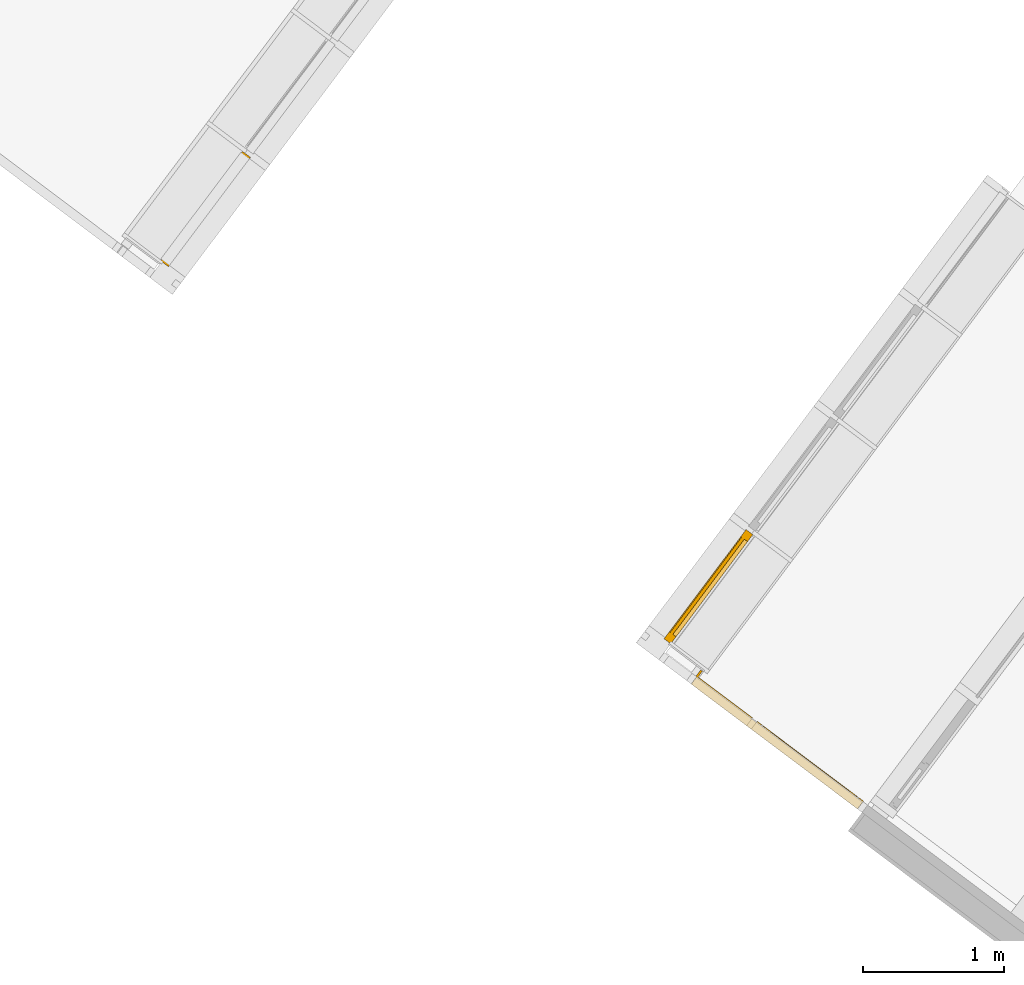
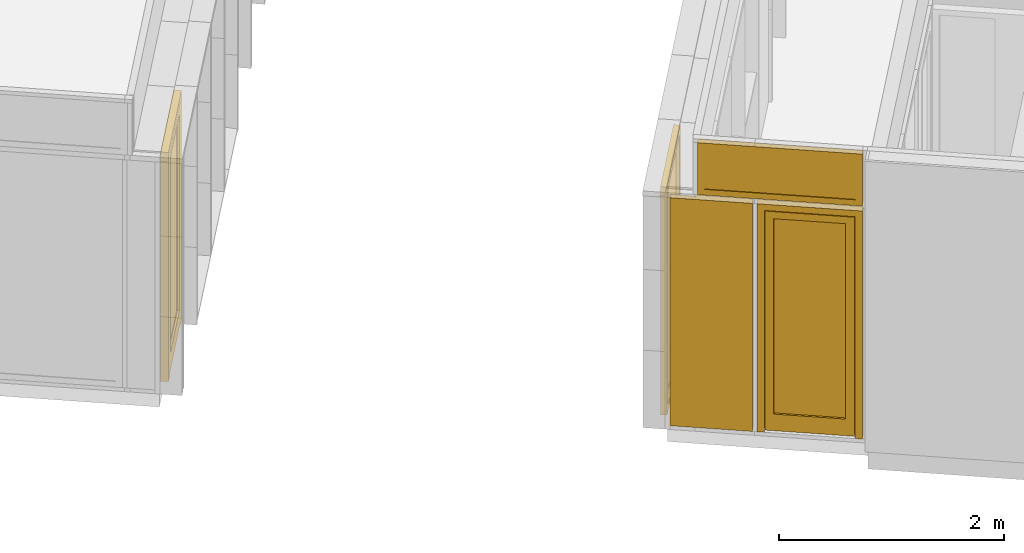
# One storey, part 140 of 243: 3 doors, 2 windows, 3 elements without a shape of their own.
"""IFC2X3 building model written with IfcOpenShell, lengths in metres."""

from ifc_helpers import new_model, entity, si_unit, converted_unit, derived_unit, direction, frame, origin, origin_2d_with_axis, place, context, subcontext, project, spatial, polyline, rectangle, outline, extrude, faceted_brep, source, transform, mapped, material, material_list, type_object, type_shapes, element, aggregate, save


model = new_model("IFC2X3")

# Units and contexts
model_context = context("Model", 3, precision=1e-05, world=origin(), true_north=direction((6.123031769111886e-17, 1.0)))
body_context = subcontext(model_context, "Body", "Model", "MODEL_VIEW")
ifc_project = project(units=[si_unit("LENGTHUNIT", "METRE"), si_unit("AREAUNIT", "SQUARE_METRE"), si_unit("VOLUMEUNIT", "CUBIC_METRE"), converted_unit("PLANEANGLEUNIT", "DEGREE", entity("IfcRatioMeasure", 0.017453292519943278), si_unit("PLANEANGLEUNIT", "RADIAN"), dimensions=[0, 0, 0, 0, 0, 0, 0]), si_unit("MASSUNIT", "GRAM", prefix="KILO"), derived_unit("MASSDENSITYUNIT", [(si_unit("MASSUNIT", "GRAM", prefix="KILO"), 1), (si_unit("LENGTHUNIT", "METRE"), -3)]), derived_unit("IONCONCENTRATIONUNIT", [(si_unit("MASSUNIT", "GRAM", prefix="KILO"), 1), (si_unit("LENGTHUNIT", "METRE"), -3)]), derived_unit("MOMENTOFINERTIAUNIT", [(si_unit("LENGTHUNIT", "METRE"), 4)]), si_unit("TIMEUNIT", "SECOND"), si_unit("FREQUENCYUNIT", "HERTZ"), si_unit("THERMODYNAMICTEMPERATUREUNIT", "DEGREE_CELSIUS"), derived_unit("THERMALTRANSMITTANCEUNIT", [(si_unit("MASSUNIT", "GRAM", prefix="KILO"), 1), (si_unit("THERMODYNAMICTEMPERATUREUNIT", "KELVIN"), -1), (si_unit("TIMEUNIT", "SECOND"), -3)]), derived_unit("THERMALCONDUCTANCEUNIT", [(si_unit("MASSUNIT", "GRAM", prefix="KILO"), 1), (si_unit("THERMODYNAMICTEMPERATUREUNIT", "KELVIN"), -1), (si_unit("TIMEUNIT", "SECOND"), -3), (si_unit("LENGTHUNIT", "METRE"), 1)]), derived_unit("VOLUMETRICFLOWRATEUNIT", [(si_unit("LENGTHUNIT", "METRE"), 3), (si_unit("TIMEUNIT", "SECOND"), -1)]), derived_unit("MASSFLOWRATEUNIT", [(si_unit("MASSUNIT", "GRAM", prefix="KILO"), 1), (si_unit("TIMEUNIT", "SECOND"), -1)]), derived_unit("ROTATIONALFREQUENCYUNIT", [(si_unit("TIMEUNIT", "SECOND"), -1)]), si_unit("ELECTRICCURRENTUNIT", "AMPERE"), si_unit("ELECTRICVOLTAGEUNIT", "VOLT"), si_unit("POWERUNIT", "WATT"), si_unit("FORCEUNIT", "NEWTON", prefix="KILO"), si_unit("ILLUMINANCEUNIT", "LUX"), si_unit("LUMINOUSFLUXUNIT", "LUMEN"), si_unit("LUMINOUSINTENSITYUNIT", "CANDELA"), derived_unit("USERDEFINED", [(si_unit("MASSUNIT", "GRAM", prefix="KILO"), -1), (si_unit("LENGTHUNIT", "METRE"), -2), (si_unit("TIMEUNIT", "SECOND"), 3), (si_unit("LUMINOUSFLUXUNIT", "LUMEN"), 1)]), derived_unit("USERDEFINED", [(si_unit("MASSUNIT", "GRAM", prefix="KILO"), 1), (si_unit("TIMEUNIT", "SECOND"), -3), (si_unit("LENGTHUNIT", "METRE"), 3), (si_unit("ELECTRICCURRENTUNIT", "AMPERE"), -2)]), derived_unit("SOUNDPOWERUNIT", [(si_unit("MASSUNIT", "GRAM", prefix="KILO"), 1), (si_unit("TIMEUNIT", "SECOND"), -3), (si_unit("LENGTHUNIT", "METRE"), 2)]), derived_unit("SOUNDPRESSUREUNIT", [(si_unit("MASSUNIT", "GRAM", prefix="KILO"), 1), (si_unit("LENGTHUNIT", "METRE"), -1), (si_unit("TIMEUNIT", "SECOND"), -2)]), derived_unit("LINEARVELOCITYUNIT", [(si_unit("LENGTHUNIT", "METRE"), 1), (si_unit("TIMEUNIT", "SECOND"), -1)]), si_unit("PRESSUREUNIT", "PASCAL"), derived_unit("USERDEFINED", [(si_unit("MASSUNIT", "GRAM", prefix="KILO"), 1), (si_unit("LENGTHUNIT", "METRE"), -2), (si_unit("TIMEUNIT", "SECOND"), -2)]), derived_unit("LINEARFORCEUNIT", [(si_unit("MASSUNIT", "GRAM", prefix="KILO"), 1), (si_unit("TIMEUNIT", "SECOND"), -2)]), derived_unit("PLANARFORCEUNIT", [(si_unit("MASSUNIT", "GRAM", prefix="KILO"), 1), (si_unit("LENGTHUNIT", "METRE"), -1), (si_unit("TIMEUNIT", "SECOND"), -2)]), derived_unit("SPECIFICHEATCAPACITYUNIT", [(si_unit("THERMODYNAMICTEMPERATUREUNIT", "KELVIN"), -1), (si_unit("LENGTHUNIT", "METRE"), 2), (si_unit("TIMEUNIT", "SECOND"), -2)]), derived_unit("HEATINGVALUEUNIT", [(si_unit("LENGTHUNIT", "METRE"), 2), (si_unit("TIMEUNIT", "SECOND"), -2)]), derived_unit("VAPORPERMEABILITYUNIT", [(si_unit("LENGTHUNIT", "METRE"), -1), (si_unit("TIMEUNIT", "SECOND"), 1)]), derived_unit("DYNAMICVISCOSITYUNIT", [(si_unit("MASSUNIT", "GRAM", prefix="KILO"), 1), (si_unit("TIMEUNIT", "SECOND"), -1), (si_unit("LENGTHUNIT", "METRE"), -1)]), derived_unit("THERMALEXPANSIONCOEFFICIENTUNIT", [(si_unit("THERMODYNAMICTEMPERATUREUNIT", "KELVIN"), -1)]), derived_unit("MODULUSOFELASTICITYUNIT", [(si_unit("MASSUNIT", "GRAM", prefix="KILO"), 1), (si_unit("LENGTHUNIT", "METRE"), -1), (si_unit("TIMEUNIT", "SECOND"), -2)]), derived_unit("ISOTHERMALMOISTURECAPACITYUNIT", [(si_unit("LENGTHUNIT", "METRE"), 3), (si_unit("MASSUNIT", "GRAM", prefix="KILO"), -1)]), derived_unit("MOISTUREDIFFUSIVITYUNIT", [(si_unit("TIMEUNIT", "SECOND"), -1), (si_unit("LENGTHUNIT", "METRE"), 2)])], contexts=[model_context])

# Site, building, storey
site_placement = place(None, frame((0.0, 0.0, 235.0), z_axis=(0.0, 0.0, 1.0), x_axis=(-0.7996477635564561, 0.6004693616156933, 0.0)))
site = spatial("IfcSite", under=ifc_project, at=site_placement, Name="Default", CompositionType="ELEMENT")
building_placement = place(site_placement, origin())
building = spatial("IfcBuilding", under=site, at=building_placement, CompositionType="ELEMENT")
storey_placement = place(building_placement, origin())
storey = spatial("IfcBuildingStorey", under=building, at=storey_placement, Name="P0- Escola", CompositionType="ELEMENT", Elevation=0.0)

# Curtain wall, door
curtain_wall_type_1 = type_object("IfcCurtainWallType", Name="Muro cortina:MC- EXT- MC2", PredefinedType="NOTDEFINED")
curtain_wall_1_placement = place(storey_placement, origin())
curtain_wall_1 = element("IfcCurtainWall", 1, at=curtain_wall_1_placement, inside=storey, type_object=curtain_wall_type_1, Name="Muro cortina:MC- EXT- MC2", ObjectType="Muro cortina:MC- EXT- MC2")
ifc_material_1 = material(Name="_Alumini- T1- Perfil")
ifc_material_2 = material(Name="_Vidre")
ifc_material_list_1 = material_list([ifc_material_1, ifc_material_2])
door_style_1 = type_object("IfcDoorStyle", Name="MC- Alu- Conjunt porta- 70x60 cm- +15cm- obertura int:MC- Alu- Conjunt porta- 70x60 cm- +15cm- obertura int", ConstructionType="NOTDEFINED", OperationType="NOTDEFINED", ParameterTakesPrecedence=False, Sizeable=False, material=ifc_material_list_1)
shared_shape_1 = source(origin(), body_context, "Body", "Brep", [
    faceted_brep([(0.411699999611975, 0.0, 0.024000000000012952), (0.411699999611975, -0.0656997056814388, 0.024000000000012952), (-0.41169999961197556, -0.06569970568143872, 0.024000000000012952), (-0.41169999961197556, 0.0, 0.024000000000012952), (0.41169999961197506, -0.0656997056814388, 2.410449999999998), (0.41169999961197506, 0.0, 2.410449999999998), (-0.41169999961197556, -0.06569970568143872, 2.410449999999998), (-0.4356999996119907, -0.06569970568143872, 0.0), (-0.4356999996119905, -0.06569970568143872, 2.4344500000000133), (0.4356999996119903, -0.06569970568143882, 2.4344500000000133), (0.4356999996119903, -0.0656997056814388, 0.0), (-0.41169999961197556, 0.0, 2.410449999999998), (0.33509999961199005, 0.0, 2.333850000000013), (-0.33509999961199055, 0.0, 2.3338500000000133), (-0.33509999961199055, 0.0, 0.20400000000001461), (0.33509999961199, 0.0, 0.20400000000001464), (-0.4356999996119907, -0.06999970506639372, 2.4344500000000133), (-0.4356999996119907, -0.0699997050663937, 0.0), (0.4356999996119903, -0.06999970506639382, 0.0), (0.43569999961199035, -0.06999970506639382, 2.4344500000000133), (-0.33509999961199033, -0.06999970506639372, 2.333850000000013), (0.33509999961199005, -0.06999970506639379, 2.333850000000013), (0.33509999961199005, -0.0699997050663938, 0.20400000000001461), (-0.33509999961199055, -0.06999970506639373, 0.20400000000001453), (-0.3350999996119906, -0.06449970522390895, 2.333850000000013), (-0.3350999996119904, -0.06449970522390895, 0.20400000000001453), (0.33509999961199, -0.06449970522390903, 0.20400000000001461), (0.33509999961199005, -0.06449970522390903, 2.333850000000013), (-0.36010000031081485, -0.06449970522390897, 2.3588500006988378), (0.3601000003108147, -0.06449970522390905, 2.3588500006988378), (0.3601000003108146, -0.06449970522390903, 0.17899999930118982), (-0.36010000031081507, -0.06449970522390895, 0.17899999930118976), (-0.3601000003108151, -0.018999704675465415, 2.3588500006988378), (-0.36010000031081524, -0.01899970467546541, 0.17899999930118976), (0.36010000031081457, -0.01899970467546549, 0.17899999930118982), (0.36010000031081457, -0.01899970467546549, 2.3588500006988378), (-0.33509999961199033, -0.018999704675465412, 2.333850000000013), (0.33509999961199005, -0.018999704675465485, 2.333850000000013), (0.33509999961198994, -0.01899970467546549, 0.20400000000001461), (-0.33509999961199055, -0.018999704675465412, 0.20400000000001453)], [[[0, 1, 2, 3]], [[4, 1, 0, 5]], [[2, 1, 4, 6], [7, 8, 9, 10]], [[2, 6, 11, 3]], [[12, 13, 14, 15], [11, 5, 0, 3]], [[16, 8, 7, 17]], [[10, 18, 17, 7]], [[18, 19, 16, 17], [20, 21, 22, 23]], [[24, 20, 23, 25]], [[23, 22, 26, 25]], [[27, 24, 25, 26], [28, 29, 30, 31]], [[32, 28, 31, 33]], [[33, 31, 30, 34]], [[35, 32, 33, 34], [36, 37, 38, 39]], [[13, 36, 39, 14]], [[39, 38, 15, 14]], [[9, 19, 18, 10]], [[21, 27, 26, 22]], [[29, 35, 34, 30]], [[37, 12, 15, 38]], [[19, 9, 8, 16]], [[27, 21, 20, 24]], [[35, 29, 28, 32]], [[12, 37, 36, 13]], [[4, 5, 11, 6]]], outer=[[True], [True], [False, True], [True], [False, True], [True], [True], [True, False], [True], [True], [False, True], [True], [True], [True, False], [True], [True], [True], [True], [True], [True], [True], [True], [True], [True], [True]]),
    faceted_brep([(-0.36010000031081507, -0.06089980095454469, 0.17899999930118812), (-0.36010000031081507, -0.02889980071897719, 0.17899999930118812), (0.3601000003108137, -0.028899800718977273, 0.17899999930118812), (0.3601000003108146, -0.06089980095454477, 0.17899999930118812), (-0.36010000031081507, -0.06089980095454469, 2.3588500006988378), (-0.36010000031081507, -0.028899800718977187, 2.3588500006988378), (0.3601000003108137, -0.028899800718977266, 2.3588500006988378), (0.3601000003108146, -0.06089980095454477, 2.3588500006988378)], [[[0, 1, 2, 3]], [[4, 5, 1, 0]], [[5, 6, 2, 1]], [[6, 7, 3, 2]], [[7, 4, 0, 3]], [[4, 7, 6, 5]]]),
    faceted_brep([(0.4849999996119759, -0.06999999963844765, 0.0), (0.44369999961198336, -0.06999999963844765, 0.0), (0.44369999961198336, -0.059699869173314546, 0.0), (0.4331999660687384, -0.059699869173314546, 0.0), (0.4331999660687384, -0.008800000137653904, 0.0), (0.4176999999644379, -0.008800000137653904, 0.0), (0.4176999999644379, 0.0, 0.0), (0.4849999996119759, 0.0, 0.0), (0.4849999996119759, -0.06999999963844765, 2.4837499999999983), (-0.4849999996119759, -0.06999999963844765, 2.4837499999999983), (-0.4849999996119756, -0.06999999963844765, 0.0), (-0.4436999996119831, -0.06999999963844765, 0.0), (-0.4436999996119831, -0.06999999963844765, 2.442450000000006), (0.44369999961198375, -0.06999999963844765, 2.4424500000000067), (0.44369999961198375, -0.059699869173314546, 2.4424500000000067), (-0.44369999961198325, -0.059699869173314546, 2.442450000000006), (-0.44369999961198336, -0.059699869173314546, 0.0), (-0.4331999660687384, -0.059699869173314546, 0.0), (-0.4331999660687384, -0.059699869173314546, 2.4319499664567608), (0.4331999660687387, -0.059699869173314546, 2.431949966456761), (0.4331999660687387, -0.008800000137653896, 2.431949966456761), (-0.4331999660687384, -0.008800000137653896, 2.4319499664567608), (-0.4331999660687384, -0.008800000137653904, 0.0), (-0.4176999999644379, -0.008800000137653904, 0.0), (-0.4176999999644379, -0.008800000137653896, 2.4164500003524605), (0.417699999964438, -0.008800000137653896, 2.4164500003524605), (0.417699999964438, 0.0, 2.4164500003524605), (-0.4176999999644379, 0.0, 2.4164500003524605), (-0.4176999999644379, 0.0, 0.0), (-0.4849999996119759, 0.0, 0.0), (-0.4849999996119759, 0.0, 2.4837499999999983), (0.48499999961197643, 0.0, 2.4837499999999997)], [[[0, 1, 2, 3, 4, 5, 6, 7]], [[1, 0, 8, 9, 10, 11, 12, 13]], [[2, 1, 13, 14]], [[3, 2, 14, 15, 16, 17, 18, 19]], [[4, 3, 19, 20]], [[5, 4, 20, 21, 22, 23, 24, 25]], [[6, 5, 25, 26]], [[7, 6, 26, 27, 28, 29, 30, 31]], [[0, 7, 31, 8]], [[10, 29, 28, 23, 22, 17, 16, 11]], [[9, 30, 29, 10]], [[27, 24, 23, 28]], [[21, 18, 17, 22]], [[15, 12, 11, 16]], [[14, 13, 12, 15]], [[20, 19, 18, 21]], [[26, 25, 24, 27]], [[8, 31, 30, 9]]]),
])
type_shapes(door_style_1, [shared_shape_1])
door_1_placement = place(curtain_wall_1_placement, frame((53.74514768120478, -20.915191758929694, 0.020000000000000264), z_axis=(0.0, 0.0, 1.0), x_axis=(0.0, 1.0, 0.0)))
door_1 = element("IfcDoor", 2, at=door_1_placement, type_object=door_style_1, material=ifc_material_list_1, Name="MC- Alu- Conjunt porta- 70x60 cm- +15cm- obertura int:MC- Alu- Conjunt porta- 70x60 cm- +15cm- obertura int", ObjectType="MC- Alu- Conjunt porta- 70x60 cm- +15cm- obertura int:MC- Alu- Conjunt porta- 70x60 cm- +15cm- obertura int", OverallHeight=2.483750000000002, OverallWidth=0.9699999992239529, context=body_context, shape_type="MappedRepresentation", body=[
    mapped(shared_shape_1, transform((0.0, 0.0, 0.0), scale=1.0)),
])
aggregate(curtain_wall_1, [door_1])

# Curtain wall, doors, window
curtain_wall_type_2 = type_object("IfcCurtainWallType", Name="Muro cortina:MC- EXT- AL1- Fa porxo", PredefinedType="NOTDEFINED")
curtain_wall_2_placement = place(storey_placement, origin())
curtain_wall_2 = element("IfcCurtainWall", 3, at=curtain_wall_2_placement, inside=storey, type_object=curtain_wall_type_2, Name="Muro cortina:MC- EXT- AL1- Fa porxo", ObjectType="Muro cortina:MC- EXT- AL1- Fa porxo")
ifc_material_3 = material(Name="_Fusta massisa- T1")
ifc_material_4 = material(Name="_Aillament")
ifc_material_list_2 = material_list([ifc_material_3, ifc_material_4, ifc_material_1])
door_style_2 = type_object("IfcDoorStyle", Name="MC- Alu- panell especific:MC- Alu- panell especific", ConstructionType="NOTDEFINED", OperationType="NOTDEFINED", ParameterTakesPrecedence=False, Sizeable=False, material=ifc_material_list_2)
shared_shape_2 = source(origin(), body_context, "Body", "SweptSolid", [
    extrude(outline(polyline([(-0.3273333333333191, -0.009999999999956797), (-0.3273333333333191, -0.030000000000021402), (0.17116666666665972, -0.030000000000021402), (0.17116666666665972, 0.03999999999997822), (0.15616666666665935, 0.03999999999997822), (0.15616666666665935, -0.009999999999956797), (-0.3273333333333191, -0.009999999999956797)])), frame((-0.04191666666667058, -0.08000000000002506, 0.0), z_axis=(0.0, 0.0, -1.0), x_axis=(1.0, 0.0, 0.0)), (0.0, 0.0, -1.0), 2.4712499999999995),
    extrude(rectangle(XDim=0.04400000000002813, YDim=0.7384999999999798, at=origin_2d_with_axis()), frame((0.0, -0.027999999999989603, 0.0), z_axis=(0.0, 0.0, 1.0), x_axis=(0.0, 1.0, 0.0)), (0.0, 0.0, 1.0), 2.4712499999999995),
    extrude(rectangle(XDim=0.73849999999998, YDim=0.005999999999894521, at=origin_2d_with_axis()), frame((0.0, -0.003000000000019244, 0.0), z_axis=(0.0, 0.0, 1.0), x_axis=(-1.0, 0.0, 0.0)), (0.0, 0.0, 1.0), 2.4712499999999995),
])
type_shapes(door_style_2, [shared_shape_2])
door_2_placement = place(curtain_wall_2_placement, frame((48.87489768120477, -20.28894175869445, 0.02099999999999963)))
door_2 = element("IfcDoor", 4, at=door_2_placement, type_object=door_style_2, material=ifc_material_list_2, Name="MC- Alu- panell especific:MC- Alu- panell especific", ObjectType="MC- Alu- panell especific:MC- Alu- panell especific", OverallHeight=2.4712499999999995, OverallWidth=0.7384999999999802, context=body_context, shape_type="MappedRepresentation", body=[
    mapped(shared_shape_2, transform((0.0, 0.0, 0.0), scale=1.0)),
])
door_style_3 = type_object("IfcDoorStyle", Name="MC- Alu- Conjunt porta- 70x60 cm- +15cm- obertura int:MC- Alu- Conjunt porta- 70x60 cm- +15cm- obertura int", ConstructionType="NOTDEFINED", OperationType="NOTDEFINED", ParameterTakesPrecedence=False, Sizeable=False, material=ifc_material_list_1)
shared_shape_3 = source(origin(), body_context, "Body", "Brep", [
    faceted_brep([(-0.3984499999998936, 0.0, 0.024000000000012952), (0.39844999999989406, 0.0, 0.024000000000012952), (0.39844999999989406, -0.06569970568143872, 0.024000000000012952), (-0.3984499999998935, -0.0656997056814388, 0.024000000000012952), (-0.3984499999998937, -0.0656997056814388, 2.397949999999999), (-0.3984499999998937, 0.0, 2.397949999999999), (0.39844999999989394, -0.06569970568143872, 2.397949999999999), (0.4224499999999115, -0.06569970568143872, 0.0), (-0.42244999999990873, -0.0656997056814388, 0.0), (-0.4224499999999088, -0.0656997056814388, 2.421950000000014), (0.4224499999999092, -0.06569970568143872, 2.421950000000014), (0.39844999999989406, 0.0, 2.397949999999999), (-0.32184999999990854, 0.0, 2.3213500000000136), (-0.3218499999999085, 0.0, 0.20400000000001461), (0.32184999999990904, 0.0, 0.20400000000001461), (0.32184999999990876, 0.0, 2.3213500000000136), (0.4224499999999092, -0.0699997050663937, 2.421950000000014), (0.4224499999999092, -0.0699997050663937, 0.0), (-0.42244999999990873, -0.0699997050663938, 0.0), (-0.4224499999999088, -0.0699997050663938, 2.421950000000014), (0.32184999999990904, -0.06999970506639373, 2.321350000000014), (0.321849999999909, -0.06999970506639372, 0.20400000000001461), (-0.3218499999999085, -0.06999970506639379, 0.20400000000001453), (-0.32184999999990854, -0.06999970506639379, 2.3213500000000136), (0.3218499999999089, -0.06449970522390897, 2.3213500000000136), (0.32184999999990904, -0.06449970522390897, 0.20400000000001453), (-0.3218499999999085, -0.06449970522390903, 0.20400000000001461), (-0.32184999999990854, -0.06449970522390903, 2.3213500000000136), (0.34685000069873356, -0.06449970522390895, 2.3463500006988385), (0.34685000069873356, -0.06449970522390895, 0.17899999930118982), (-0.34685000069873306, -0.06449970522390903, 0.17899999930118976), (-0.34685000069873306, -0.06449970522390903, 2.346350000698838), (0.34685000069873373, -0.018999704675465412, 2.3463500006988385), (0.34685000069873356, -0.01899970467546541, 0.17899999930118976), (-0.34685000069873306, -0.018999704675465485, 0.17899999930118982), (-0.34685000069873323, -0.01899970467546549, 2.346350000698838), (0.32184999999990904, -0.018999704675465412, 2.321350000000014), (0.3218499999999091, -0.018999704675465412, 0.20400000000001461), (-0.3218499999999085, -0.018999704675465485, 0.20400000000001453), (-0.32184999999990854, -0.018999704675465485, 2.3213500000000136)], [[[0, 1, 2, 3]], [[4, 5, 0, 3]], [[2, 6, 4, 3], [7, 8, 9, 10]], [[2, 1, 11, 6]], [[11, 1, 0, 5], [12, 13, 14, 15]], [[16, 17, 7, 10]], [[8, 7, 17, 18]], [[18, 17, 16, 19], [20, 21, 22, 23]], [[24, 25, 21, 20]], [[21, 25, 26, 22]], [[27, 26, 25, 24], [28, 29, 30, 31]], [[32, 33, 29, 28]], [[33, 34, 30, 29]], [[35, 34, 33, 32], [36, 37, 38, 39]], [[15, 14, 37, 36]], [[37, 14, 13, 38]], [[9, 8, 18, 19]], [[23, 22, 26, 27]], [[31, 30, 34, 35]], [[39, 38, 13, 12]], [[19, 16, 10, 9]], [[27, 24, 20, 23]], [[35, 32, 28, 31]], [[12, 15, 36, 39]], [[4, 6, 11, 5]]], outer=[[True], [True], [False, True], [True], [True, False], [True], [True], [True, False], [True], [True], [False, True], [True], [True], [True, False], [True], [True], [True], [True], [True], [True], [True], [True], [True], [True], [True]]),
    faceted_brep([(0.34685000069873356, -0.060899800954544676, 0.17899999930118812), (-0.3468500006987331, -0.06089980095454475, 0.17899999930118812), (-0.3468500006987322, -0.028899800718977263, 0.17899999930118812), (0.34685000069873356, -0.028899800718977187, 0.17899999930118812), (0.34685000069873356, -0.060899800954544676, 2.3463500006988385), (0.34685000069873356, -0.028899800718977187, 2.3463500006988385), (-0.3468500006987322, -0.028899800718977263, 2.3463500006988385), (-0.3468500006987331, -0.06089980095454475, 2.3463500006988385)], [[[0, 1, 2, 3]], [[4, 0, 3, 5]], [[5, 3, 2, 6]], [[6, 2, 1, 7]], [[7, 1, 0, 4]], [[4, 5, 6, 7]]]),
    faceted_brep([(-0.47174999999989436, -0.06999999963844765, 0.0), (-0.47174999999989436, 0.0, 0.0), (-0.4044500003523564, 0.0, 0.0), (-0.4044500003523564, -0.008800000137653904, 0.0), (-0.4199499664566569, -0.008800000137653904, 0.0), (-0.4199499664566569, -0.059699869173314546, 0.0), (-0.43044999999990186, -0.059699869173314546, 0.0), (-0.43044999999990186, -0.06999999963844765, 0.0), (-0.43044999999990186, -0.06999999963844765, 2.4299500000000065), (0.43044999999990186, -0.06999999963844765, 2.4299500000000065), (0.43044999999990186, -0.06999999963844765, 0.0), (0.47174999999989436, -0.06999999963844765, 0.0), (0.47174999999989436, -0.06999999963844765, 2.471249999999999), (-0.4717499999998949, -0.06999999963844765, 2.4712500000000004), (-0.43044999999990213, -0.059699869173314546, 2.4299500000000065), (-0.4199499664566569, -0.059699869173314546, 2.4194499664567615), (0.4199499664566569, -0.059699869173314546, 2.4194499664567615), (0.4199499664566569, -0.059699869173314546, 0.0), (0.43044999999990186, -0.059699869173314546, 0.0), (0.43044999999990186, -0.059699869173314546, 2.4299500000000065), (-0.41994996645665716, -0.008800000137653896, 2.4194499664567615), (-0.4044500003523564, -0.008800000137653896, 2.403950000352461), (0.4044500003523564, -0.008800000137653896, 2.403950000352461), (0.4044500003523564, -0.008800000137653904, 0.0), (0.4199499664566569, -0.008800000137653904, 0.0), (0.4199499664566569, -0.008800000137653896, 2.4194499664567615), (-0.4044500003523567, 0.0, 2.403950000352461), (-0.47174999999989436, 0.0, 2.471249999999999), (0.47174999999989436, 0.0, 2.471249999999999), (0.47174999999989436, 0.0, 0.0), (0.4044500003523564, 0.0, 0.0), (0.4044500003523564, 0.0, 2.403950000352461)], [[[0, 1, 2, 3, 4, 5, 6, 7]], [[7, 8, 9, 10, 11, 12, 13, 0]], [[6, 14, 8, 7]], [[5, 15, 16, 17, 18, 19, 14, 6]], [[4, 20, 15, 5]], [[3, 21, 22, 23, 24, 25, 20, 4]], [[2, 26, 21, 3]], [[1, 27, 28, 29, 30, 31, 26, 2]], [[0, 13, 27, 1]], [[11, 10, 18, 17, 24, 23, 30, 29]], [[12, 11, 29, 28]], [[31, 30, 23, 22]], [[25, 24, 17, 16]], [[19, 18, 10, 9]], [[14, 19, 9, 8]], [[20, 25, 16, 15]], [[26, 31, 22, 21]], [[13, 12, 28, 27]]]),
])
type_shapes(door_style_3, [shared_shape_3])
door_3_placement = place(curtain_wall_2_placement, frame((47.99289768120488, -20.288941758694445, 0.020999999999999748)))
door_3 = element("IfcDoor", 5, at=door_3_placement, type_object=door_style_3, material=ifc_material_list_1, Name="MC- Alu- Conjunt porta- 70x60 cm- +15cm- obertura int:MC- Alu- Conjunt porta- 70x60 cm- +15cm- obertura int", ObjectType="MC- Alu- Conjunt porta- 70x60 cm- +15cm- obertura int:MC- Alu- Conjunt porta- 70x60 cm- +15cm- obertura int", OverallHeight=2.4712500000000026, OverallWidth=0.9434999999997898, context=body_context, shape_type="MappedRepresentation", body=[
    mapped(shared_shape_3, transform((0.0, 0.0, 0.0), scale=1.0)),
])
ifc_material_list_3 = material_list([ifc_material_2, ifc_material_1])
window_style_1 = type_object("IfcWindowStyle", Name="MC- Alu- Conjunt vidre fix- 62x60 cm:MC- Alu- Conjunt vidre fix- 62x60 cm", ConstructionType="NOTDEFINED", OperationType="NOTDEFINED", ParameterTakesPrecedence=False, Sizeable=False, material=ifc_material_list_3)
shared_shape_4 = source(origin(), body_context, "Body", "Brep", [
    faceted_brep([(0.6896099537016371, -0.007600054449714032, 0.048806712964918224), (0.6896099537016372, -0.03160022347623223, 0.048806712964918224), (-0.6896099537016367, -0.03160022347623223, 0.048806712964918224), (-0.689609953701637, -0.007600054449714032, 0.048806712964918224), (0.6896099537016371, -0.007600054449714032, 0.5147500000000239), (-0.6896099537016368, -0.007600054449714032, 0.5147500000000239), (-0.6896099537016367, -0.03160022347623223, 0.5147500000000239), (0.6896099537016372, -0.03160022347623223, 0.5147500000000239)], [[[0, 1, 2, 3]], [[4, 0, 3, 5]], [[5, 3, 2, 6]], [[6, 2, 1, 7]], [[7, 1, 0, 4]], [[4, 5, 6, 7]]]),
    faceted_brep([(0.7384166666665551, -0.05999999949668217, 0.563750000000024), (0.7384166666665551, -0.05999999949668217, 0.0), (0.7384166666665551, 0.0, 0.0), (0.7384166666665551, 0.0, 0.563750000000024), (-0.7384166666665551, 0.0, 0.563750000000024), (-0.7384166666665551, 0.0, 0.0), (0.6756098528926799, 0.0, 0.5009431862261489), (-0.6756098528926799, 0.0, 0.5009431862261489), (-0.6756098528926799, 0.0, 0.06280681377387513), (0.6756098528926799, 0.0, 0.06280681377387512), (-0.7384166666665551, -0.05999999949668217, 0.0), (-0.7384166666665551, -0.05999999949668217, 0.563750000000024), (-0.6756126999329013, -0.05999999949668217, 0.5009460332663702), (0.6756126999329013, -0.05999999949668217, 0.5009460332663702), (0.6756126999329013, -0.05999999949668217, 0.06280396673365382), (-0.6756126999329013, -0.05999999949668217, 0.06280396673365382), (0.6756126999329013, -0.03160022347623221, 0.5009460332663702), (0.6756126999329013, -0.03160022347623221, 0.06280396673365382), (-0.6756126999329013, -0.03160022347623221, 0.06280396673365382), (-0.6756126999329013, -0.03160022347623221, 0.5009460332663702), (-0.689609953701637, -0.03160022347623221, 0.5149432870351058), (0.689609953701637, -0.03160022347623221, 0.5149432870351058), (0.689609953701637, -0.03160022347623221, 0.048806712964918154), (-0.689609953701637, -0.03160022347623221, 0.04880671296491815), (0.689609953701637, -0.007600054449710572, 0.5149432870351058), (0.689609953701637, -0.007600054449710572, 0.04880671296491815), (-0.689609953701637, -0.007600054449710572, 0.048806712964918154), (-0.689609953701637, -0.007600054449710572, 0.5149432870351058), (-0.6756098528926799, -0.007600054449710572, 0.5009431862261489), (0.6756098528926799, -0.007600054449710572, 0.5009431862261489), (0.6756098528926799, -0.007600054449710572, 0.06280681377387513), (-0.6756098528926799, -0.007600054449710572, 0.06280681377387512)], [[[0, 1, 2, 3]], [[4, 3, 2, 5], [6, 7, 8, 9]], [[1, 10, 5, 2]], [[0, 11, 10, 1], [12, 13, 14, 15]], [[16, 17, 14, 13]], [[17, 18, 15, 14]], [[16, 19, 18, 17], [20, 21, 22, 23]], [[24, 25, 22, 21]], [[25, 26, 23, 22]], [[24, 27, 26, 25], [28, 29, 30, 31]], [[6, 9, 30, 29]], [[9, 8, 31, 30]], [[10, 11, 4, 5]], [[18, 19, 12, 15]], [[26, 27, 20, 23]], [[8, 7, 28, 31]], [[11, 0, 3, 4]], [[19, 16, 13, 12]], [[27, 24, 21, 20]], [[7, 6, 29, 28]]], outer=[[True], [True, False], [True], [True, False], [True], [True], [False, True], [True], [True], [True, False], [True], [True], [True], [True], [True], [True], [True], [True], [True], [True]]),
])
type_shapes(window_style_1, [shared_shape_4])
window_1_placement = place(curtain_wall_2_placement, frame((48.259564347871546, -20.288941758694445, 2.54525)))
window_1 = element("IfcWindow", 6, at=window_1_placement, type_object=window_style_1, material=ifc_material_list_3, Name="MC- Alu- Conjunt vidre fix- 62x60 cm:MC- Alu- Conjunt vidre fix- 62x60 cm", ObjectType="MC- Alu- Conjunt vidre fix- 62x60 cm:MC- Alu- Conjunt vidre fix- 62x60 cm", OverallHeight=0.563750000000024, OverallWidth=1.4768333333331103, context=body_context, shape_type="MappedRepresentation", body=[
    mapped(shared_shape_4, transform((0.0, 0.0, 0.0), scale=1.0)),
])
aggregate(curtain_wall_2, [door_2, door_3, window_1])

# Curtain wall, window
curtain_wall_type_3 = type_object("IfcCurtainWallType", Name="Muro cortina:MC- EXT- MC5", PredefinedType="NOTDEFINED")
curtain_wall_3_placement = place(storey_placement, origin())
curtain_wall_3 = element("IfcCurtainWall", 7, at=curtain_wall_3_placement, inside=storey, type_object=curtain_wall_type_3, Name="Muro cortina:MC- EXT- MC5", ObjectType="Muro cortina:MC- EXT- MC5")
window_style_2 = type_object("IfcWindowStyle", Name="MC- Alu- Conjunt vidre fix- 62x60 cm:MC- Alu- Conjunt vidre fix- 62x60 cm", ConstructionType="NOTDEFINED", OperationType="NOTDEFINED", ParameterTakesPrecedence=False, Sizeable=False, material=ifc_material_list_3)
shared_shape_5 = source(origin(), body_context, "Body", "Brep", [
    faceted_brep([(-0.43619328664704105, -0.007600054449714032, 0.048806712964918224), (0.43619328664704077, -0.007600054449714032, 0.048806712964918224), (0.43619328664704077, -0.03160022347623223, 0.048806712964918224), (-0.43619328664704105, -0.03160022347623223, 0.048806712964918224), (-0.43619328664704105, -0.007600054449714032, 2.422449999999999), (0.43619328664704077, -0.007600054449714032, 2.422449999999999), (0.43619328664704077, -0.03160022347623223, 2.422449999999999), (-0.43619328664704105, -0.03160022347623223, 2.422449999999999)], [[[0, 1, 2, 3]], [[4, 5, 1, 0]], [[5, 6, 2, 1]], [[6, 7, 3, 2]], [[7, 4, 0, 3]], [[4, 7, 6, 5]]]),
    faceted_brep([(-0.4849999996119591, -0.05999999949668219, 2.471449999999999), (-0.4849999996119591, 0.0, 2.471449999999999), (-0.4849999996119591, 0.0, 0.0), (-0.48499999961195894, -0.05999999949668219, 0.0), (-0.4221931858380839, 0.0, 2.408643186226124), (-0.4221931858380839, 0.0, 0.06280681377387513), (0.42219318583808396, 0.0, 0.06280681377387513), (0.422193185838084, 0.0, 2.408643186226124), (0.4849999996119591, 0.0, 2.471449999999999), (0.4849999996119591, 0.0, 0.0), (0.48499999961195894, -0.05999999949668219, 0.0), (0.4849999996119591, -0.05999999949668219, 2.471449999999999), (0.42219603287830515, -0.05999999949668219, 2.408646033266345), (0.42219603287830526, -0.05999999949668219, 0.06280396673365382), (-0.42219603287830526, -0.05999999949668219, 0.06280396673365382), (-0.42219603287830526, -0.05999999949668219, 2.4086460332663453), (-0.42219603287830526, -0.03160022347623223, 2.4086460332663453), (-0.4221960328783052, -0.03160022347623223, 0.06280396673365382), (0.4221960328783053, -0.03160022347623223, 0.06280396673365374), (0.42219603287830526, -0.03160022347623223, 2.4086460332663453), (0.43619328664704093, -0.03160022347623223, 2.422643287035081), (0.43619328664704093, -0.03160022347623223, 0.048806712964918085), (-0.4361932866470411, -0.03160022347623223, 0.04880671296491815), (-0.43619328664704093, -0.03160022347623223, 2.422643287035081), (-0.43619328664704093, -0.007600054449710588, 2.422643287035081), (-0.4361932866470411, -0.007600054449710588, 0.04880671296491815), (0.43619328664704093, -0.007600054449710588, 0.048806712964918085), (0.43619328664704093, -0.007600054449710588, 2.422643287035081), (0.42219318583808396, -0.007600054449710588, 2.408643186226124), (0.42219318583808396, -0.007600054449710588, 0.06280681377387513), (-0.42219318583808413, -0.007600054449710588, 0.06280681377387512), (-0.4221931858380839, -0.007600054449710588, 2.408643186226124)], [[[0, 1, 2, 3]], [[4, 5, 6, 7], [8, 9, 2, 1]], [[3, 2, 9, 10]], [[0, 3, 10, 11], [12, 13, 14, 15]], [[16, 15, 14, 17]], [[17, 14, 13, 18]], [[16, 17, 18, 19], [20, 21, 22, 23]], [[24, 23, 22, 25]], [[25, 22, 21, 26]], [[24, 25, 26, 27], [28, 29, 30, 31]], [[4, 31, 30, 5]], [[5, 30, 29, 6]], [[10, 9, 8, 11]], [[18, 13, 12, 19]], [[26, 21, 20, 27]], [[6, 29, 28, 7]], [[11, 8, 1, 0]], [[19, 12, 15, 16]], [[27, 20, 23, 24]], [[7, 28, 31, 4]]], outer=[[True], [False, True], [True], [True, False], [True], [True], [False, True], [True], [True], [True, False], [True], [True], [True], [True], [True], [True], [True], [True], [True], [True]]),
])
type_shapes(window_style_2, [shared_shape_5])
window_2_placement = place(curtain_wall_3_placement, frame((49.3451476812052, -20.91519175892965, 0.03229999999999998), z_axis=(0.0, 0.0, 1.0), x_axis=(0.0, -1.0, 0.0)))
window_2 = element("IfcWindow", 8, at=window_2_placement, type_object=window_style_2, material=ifc_material_list_3, Name="MC- Alu- Conjunt vidre fix- 62x60 cm:MC- Alu- Conjunt vidre fix- 62x60 cm", ObjectType="MC- Alu- Conjunt vidre fix- 62x60 cm:MC- Alu- Conjunt vidre fix- 62x60 cm", OverallHeight=2.471449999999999, OverallWidth=0.9699999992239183, context=body_context, shape_type="MappedRepresentation", body=[
    mapped(shared_shape_5, transform((0.0, 0.0, 0.0), scale=1.0)),
])
aggregate(curtain_wall_3, [window_2])

save(model, "model.ifc")
